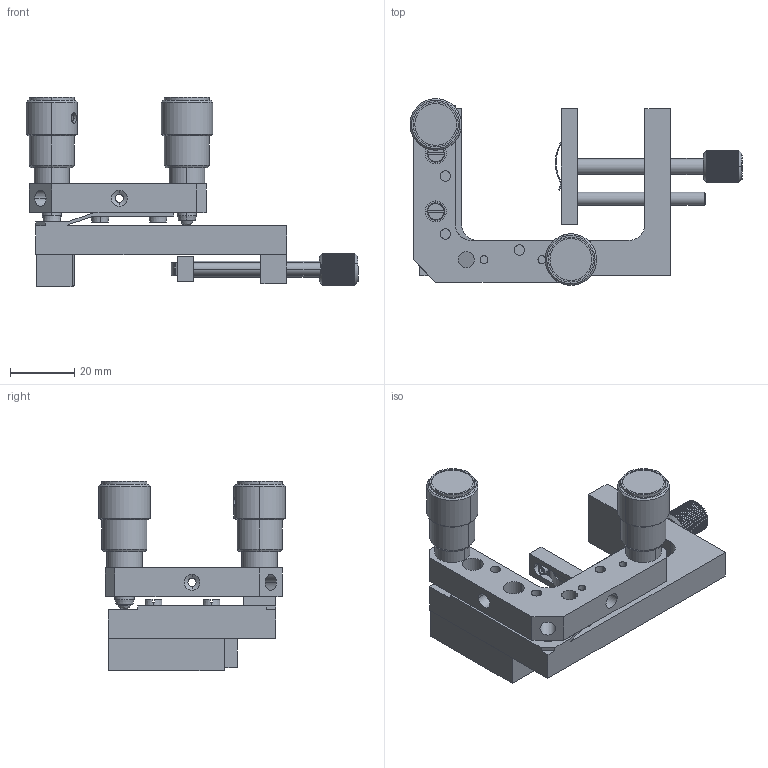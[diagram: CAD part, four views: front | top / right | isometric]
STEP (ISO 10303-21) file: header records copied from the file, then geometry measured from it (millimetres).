
FILE_DESCRIPTION (( 'STEP AP203' ), '1' );
FILE_NAME ('5OM37-50TPF-9S65M.STEP', '2013-05-24T08:44:03', ( '' ), ( '' ), 'SwSTEP 2.0', 'SolidWorks 2003240', '' );
FILE_SCHEMA (( 'CONFIG_CONTROL_DESIGN' ));
Length unit declared in the file: millimetre
Products named in the file (1): 5OM37-50TPF-9S65M
Bounding box: 103.18 x 58 x 58.92 mm (x, y, z)
Volume: 42354 mm3; surface area: 24098.4 mm2
Topology: 1 solids, 23 shells, 849 faces, 2007 edges, 1234 vertices
Faces by surface type: plane 513, cylinder 212, cone 98, bspline 26
Entity records: 25399 total; most frequent: CARTESIAN_POINT 5747, DIRECTION 4191, ORIENTED_EDGE 3958, EDGE_CURVE 1979, AXIS2_PLACEMENT_3D 1562, VERTEX_POINT 1234, LINE 1067, VECTOR 1067
